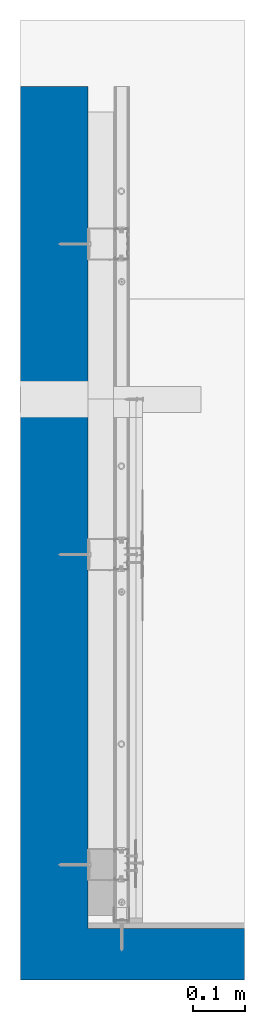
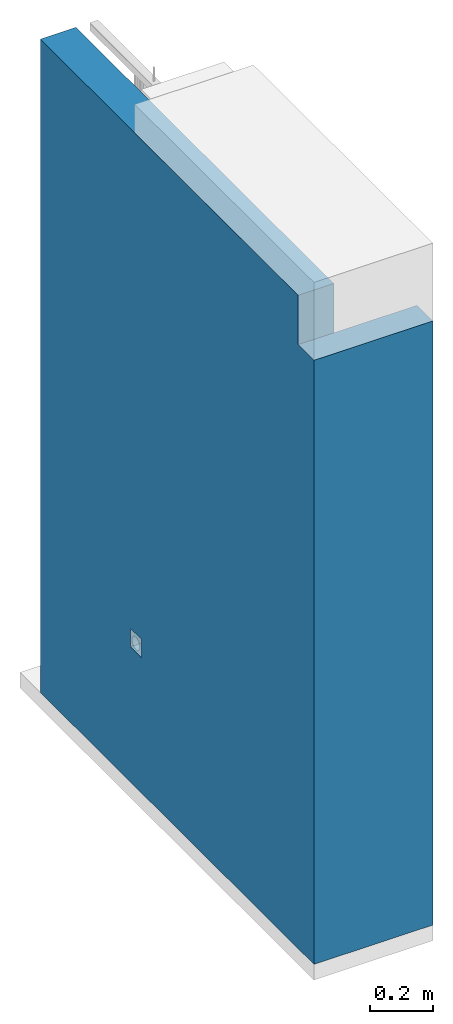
# One storey, part 4 of 61: 1 wall.
"""IFC2X3 building model written with IfcOpenShell, lengths in millimetres."""

from ifc_helpers import new_model, si_unit, frame, origin_with_axes, place, context, subcontext, project, spatial, faceted_brep, material, type_object, element, save


model = new_model("IFC2X3")

# Units and contexts
model_context = context("Model", 3, world=origin_with_axes())
body_context = subcontext(model_context, "Body", "Model", "MODEL_VIEW")
ifc_project = project(units=[si_unit("LENGTHUNIT", "METRE", prefix="MILLI"), si_unit("AREAUNIT", "SQUARE_METRE"), si_unit("VOLUMEUNIT", "CUBIC_METRE")], contexts=[model_context])

# Site, building, storey
site_placement = place(None, frame((2152.1410261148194, -2015.0250894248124, 57.61556563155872), z_axis=(0.0, 0.0, 1.0), x_axis=(-1.1102230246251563e-16, 1.0, 0.0)))
site = spatial("IfcSite", under=ifc_project, at=site_placement, Name="Default Site", CompositionType="ELEMENT")
building_placement = place(site_placement, origin_with_axes())
building = spatial("IfcBuilding", under=site, at=building_placement, Name="Default Building", CompositionType="ELEMENT")
storey_placement = place(building_placement, origin_with_axes())
storey = spatial("IfcBuildingStorey", under=building, at=storey_placement, Name="Default Building Storey", CompositionType="ELEMENT", Elevation=57.61556563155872)

# Wall
ifc_material = material(Name="M03_Pewter_Shine")
wall_type = type_object("IfcWallType", Name="Ściana#2", PredefinedType="NOTDEFINED")
wall_placement = place(storey_placement, frame((2118.0250894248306, 2049.1410261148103, 2536.39441766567), z_axis=(-1.0, 7.216449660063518e-16, 8.326672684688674e-17), x_axis=(8.326672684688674e-17, -4.622231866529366e-32, 1.0)))
element("IfcWall", 1, at=wall_placement, inside=storey, type_object=wall_type, material=ifc_material, Name="Ściana", context=body_context, shape_type="Brep", body=[
    faceted_brep([(-205.9999832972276, 103.0000000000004, 3.0000004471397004), (-205.9999832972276, 103.0000000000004, 103.00000000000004), (-205.9999832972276, -330.0000000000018, 103.00000000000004), (-205.9999832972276, -330.0000000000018, 3.0000004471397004), (-205.99998329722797, -27.000143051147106, 3.0000004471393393), (-2534.0103917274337, 103.0000000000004, 102.9999999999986), (-2534.0103917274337, 103.0000000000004, 3.000000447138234), (-2534.010391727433, -27.000143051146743, 3.000000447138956), (-2534.0103917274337, -330.0000000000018, 3.0000004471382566), (-2534.0103917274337, -330.0000000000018, 102.9999999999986), (-2534.010391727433, -27.000143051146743, -1625.015526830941), (-2534.010391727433, 103.00000000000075, -1625.015526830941), (-15.999983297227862, 103.00000000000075, -1625.0155268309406), (-15.999983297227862, -27.000143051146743, -1625.0155268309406), (-15.999983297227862, -27.000143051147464, -197.0154921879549), (-15.999983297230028, -27.000143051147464, 3.0000004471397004), (-2012.066900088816, -27.00014305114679, -984.8764935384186), (-1942.0797709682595, -27.00014305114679, -984.8764935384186), (-1942.0797709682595, -27.00014305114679, -1054.8571824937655), (-2012.066900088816, -27.00014305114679, -1054.8571824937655), (-15.999983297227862, 103.00000000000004, -197.01549218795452), (-15.999983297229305, 103.00000000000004, 3.0000004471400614), (-1942.0797709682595, 103.00000000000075, -984.8764935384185), (-2012.066900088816, 103.00000000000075, -984.8764935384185), (-2012.066900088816, 103.00000000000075, -1054.8571824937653), (-1942.0797709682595, 103.00000000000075, -1054.8571824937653)], [[[0, 1, 2, 3, 4]], [[5, 6, 7, 8, 9]], [[2, 1, 5, 9]], [[3, 2, 9, 8]], [[10, 11, 12, 13]], [[7, 6, 11, 10]], [[4, 7, 10, 13, 14, 15], [16, 17, 18, 19]], [[12, 20, 14, 13]], [[1, 0, 21, 20, 12, 11, 6, 5], [22, 23, 24, 25]], [[15, 14, 20, 21]], [[0, 4, 15, 21]], [[17, 16, 23, 22]], [[16, 19, 24, 23]], [[19, 18, 25, 24]], [[18, 17, 22, 25]]]),
    faceted_brep([(-2534.0103917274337, -330.0000000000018, 3.0000004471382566), (-2534.010391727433, -27.000143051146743, 3.000000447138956), (-205.99998329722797, -27.000143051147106, 3.0000004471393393), (-205.9999832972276, -330.0000000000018, 3.0000004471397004)], [[[0, 1, 2, 3]]]),
])

save(model, "model.ifc")
